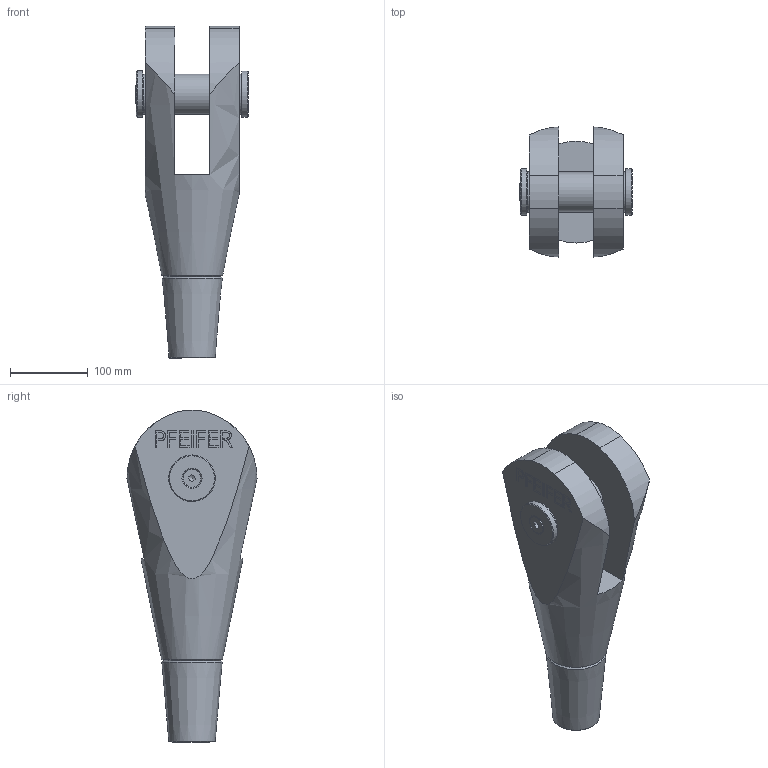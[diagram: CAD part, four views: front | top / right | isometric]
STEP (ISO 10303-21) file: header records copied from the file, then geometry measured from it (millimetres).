
FILE_DESCRIPTION(/* description */ (''),/* implementation_level */ '2;1');
FILE_NAME(/* name */ 'C:\Vault_WS\Designs\520-052-GAK.stp',/* time_stamp */ '2020-06-25T07:56:31+02:00',/* author */ ('schwarz'),/* organization */ (''),/* preprocessor_version */ 'ST-DEVELOPER v16.1',/* originating_system */ 'Autodesk Inventor 2016',/* authorisation */ '');
FILE_SCHEMA (('AUTOMOTIVE_DESIGN { 1 0 10303 214 3 1 1 }'));
Length unit declared in the file: centimetre
Products named in the file (1): 520-052-GAK-KMU-Kunde
Bounding box: 144.44 x 167.69 x 428 mm (x, y, z)
Volume: 3326906.1 mm3; surface area: 259414.4 mm2
Topology: 2 solids, 4 shells, 186 faces, 483 edges, 320 vertices
Faces by surface type: plane 136, bspline 21, cylinder 16, cone 13
Full cylindrical faces by diameter (mm): 10.106 x1, 12 x1, 13.5 x1, 23.12 x1, 52 x1, 54.5 x1, 55 x2, 60 x2
Entity records: 5777 total; most frequent: CARTESIAN_POINT 1272, ORIENTED_EDGE 900, DIRECTION 768, EDGE_CURVE 450, LINE 348, VECTOR 348, VERTEX_POINT 310, EDGE_LOOP 230
